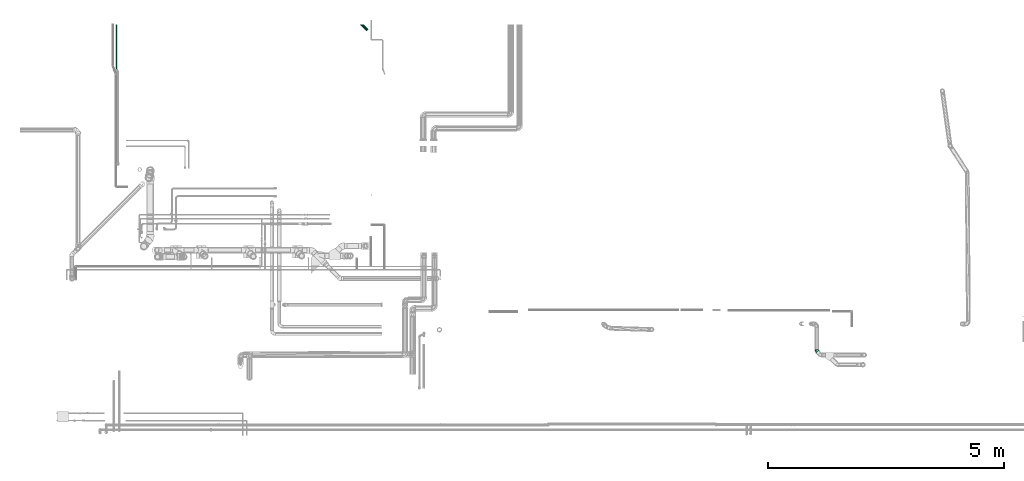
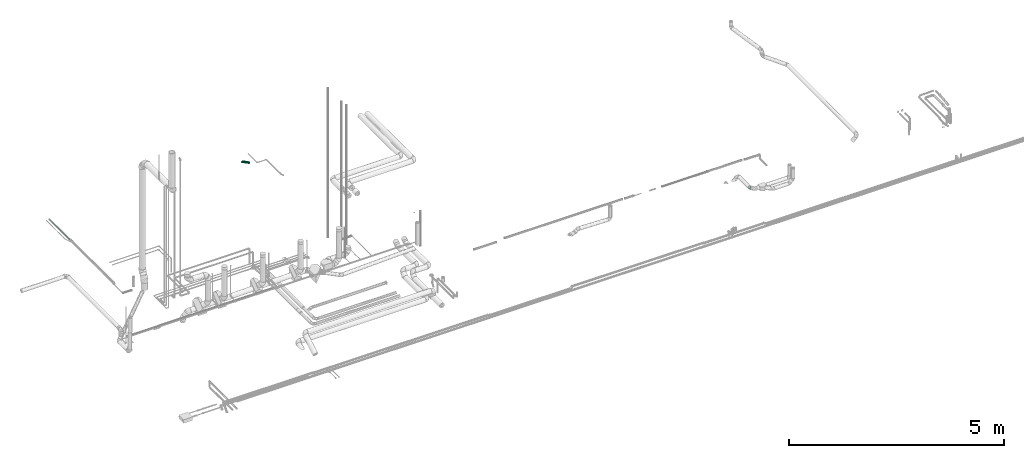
# One storey, part 142 of 156: 2 flow segments, 1 flow fitting.
"""IFC2X3 building model written with IfcOpenShell, lengths in millimetres."""

from ifc_helpers import new_model, entity, si_unit, converted_unit, derived_unit, direction, frame, origin_with_axes, place, context, subcontext, project, spatial, open_shell, faceted_brep, surface_model, source, transform, mapped, type_object, element, save


model = new_model("IFC2X3")

# Units and contexts
model_context = context("Model", 3, precision=0.01, world=frame((0.0, 4.29681676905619e-09, 0.0)), true_north=direction((4.01073788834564e-13, 1.0)))
plan_context = context("Plan", 3, precision=0.01, world=frame((0.0, 4.29681676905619e-09, 0.0)), true_north=direction((4.01073788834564e-13, 1.0)))
body_context = subcontext(model_context, "Body", "Model", "MODEL_VIEW")
ifc_project = project(units=[converted_unit("PLANEANGLEUNIT", "DEGREE", entity("IfcPositiveLengthMeasure", 0.0174532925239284), si_unit("PLANEANGLEUNIT", "RADIAN"), dimensions=[0, 0, 0, 0, 0, 0, 0]), si_unit("AREAUNIT", "SQUARE_METRE"), si_unit("LENGTHUNIT", "METRE", prefix="MILLI"), si_unit("MASSUNIT", "GRAM", prefix="KILO"), si_unit("POWERUNIT", "WATT"), si_unit("PRESSUREUNIT", "PASCAL", prefix="KILO"), si_unit("FORCEUNIT", "NEWTON", prefix="KILO"), si_unit("ELECTRICVOLTAGEUNIT", "VOLT"), si_unit("ELECTRICCURRENTUNIT", "AMPERE"), si_unit("THERMODYNAMICTEMPERATUREUNIT", "DEGREE_CELSIUS"), si_unit("TIMEUNIT", "SECOND"), si_unit("VOLUMEUNIT", "CUBIC_METRE"), derived_unit("LINEARVELOCITYUNIT", [(si_unit("LENGTHUNIT", "METRE"), 1), (si_unit("TIMEUNIT", "SECOND"), -1)]), derived_unit("VOLUMETRICFLOWRATEUNIT", [(si_unit("VOLUMEUNIT", "CUBIC_METRE"), 1), (si_unit("TIMEUNIT", "SECOND"), -1)]), derived_unit("THERMALTRANSMITTANCEUNIT", [(si_unit("POWERUNIT", "WATT"), 1), (si_unit("THERMODYNAMICTEMPERATUREUNIT", "KELVIN"), -1), (si_unit("AREAUNIT", "SQUARE_METRE"), -1)]), derived_unit("SOUNDPRESSUREUNIT", [(si_unit("PRESSUREUNIT", "PASCAL"), 1)])], contexts=[model_context, plan_context])

# Site, building, storey
site_placement = place(None, frame((0.0, -4.29681676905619e-09, 0.0), z_axis=(0.0, 0.0, 1.0), x_axis=(1.0, 0.0, 0.0)))
site = spatial("IfcSite", under=ifc_project, at=site_placement, CompositionType="ELEMENT")
building_placement = place(site_placement, frame((0.0, 4.29681676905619e-09, 0.0), z_axis=(0.0, 0.0, 1.0), x_axis=(1.0, 0.0, 0.0)))
building = spatial("IfcBuilding", under=site, at=building_placement, Name="mc-building", CompositionType="ELEMENT")
storey_placement = place(building_placement, frame((0.0, 0.0, 205200.0), z_axis=(0.0, 0.0, 1.0), x_axis=(1.0, 0.0, 0.0)))
storey = spatial("IfcBuildingStorey", under=building, at=storey_placement, Name="Nivå D + 1,2 m", CompositionType="ELEMENT", Elevation=205200.0)

# Flow fitting
pipe_fitting_type = type_object("IfcPipeFittingType", Name="magi_pipe_elbow_short_001", PredefinedType="BEND")
shared_shape = source(origin_with_axes(), body_context, "Body", "SurfaceModel", [
    surface_model("IfcShellBasedSurfaceModel", [(-27.29777, 18.75, -32.47595), (-27.29777, 9.70571, -36.22222), (-27.29777, 0.0, -37.5), (-27.29777, 26.5165, -26.5165), (-27.29777, 36.22222, -9.70571), (-27.29777, 32.47595, -18.75), (-27.29777, -26.5165, -26.5165), (-27.29777, -32.47595, -18.75), (-27.29777, -18.75, -32.47595), (-27.29777, -9.70571, -36.22222), (-27.29777, -36.22222, -9.70571), (-27.29777, -37.5, 0.0), (-27.29777, -36.22222, 9.70571), (-27.29777, 36.22222, 9.70571), (-27.29777, 37.5, 0.0), (-27.29777, 26.5165, 26.5165), (-27.29777, 32.47595, 18.75), (-27.29777, 9.70571, 36.22222), (-27.29777, 18.75, 32.47595), (-27.29777, 0.0, 37.5), (-27.29777, -32.47595, 18.75), (-27.29777, -26.5165, 26.5165), (-27.29777, -18.75, 32.47595), (-27.29777, -9.70571, 36.22222), (20.9113, 17.54667, -37.5), (14.67259, 24.98168, -36.22222), (8.85904, 31.91, -32.47595), (0.03616, 42.42469, -18.75), (41.78644, -7.33136, -18.75), (-3.19323, 46.27333, 0.0), (3.86682, 37.85949, -26.5165), (27.15002, 10.11166, -36.22222), (37.95578, -2.76615, -26.5165), (32.96357, 3.18333, -32.47595), (45.01584, -11.18, 0.0), (44.1945, -10.20116, -9.70571), (3.86682, 37.85949, 26.5165), (-2.37189, 45.2945, -9.70571), (-2.37189, 45.2945, 9.70571), (0.03616, 42.42469, 18.75), (8.85904, 31.91, 32.47595), (14.67259, 24.98168, 36.22222), (20.9113, 17.54667, 37.5), (41.78644, -7.33136, 18.75), (32.96357, 3.18333, 32.47595), (37.95578, -2.76615, 26.5165), (44.1945, -10.20116, 9.70571), (27.15002, 10.11166, 36.22222), (-10.43486, -28.90707, 22.1402), (-4.73319, -32.74118, 13.25648), (8.90732, -24.47266, 21.3101), (-11.49902, -35.81697, 6.47084), (-1.35348, -34.46755, 0.0), (-5.98655, -21.3556, 29.0742), (26.57467, -15.43671, 22.1402), (-13.29391, -13.92383, 34.36069), (3.77414, -10.36937, 33.98654), (-2.84666, 7.82114, 37.33539), (-8.43906, -3.6724, 37.03277), (18.31308, -12.51125, 29.0742), (19.13379, -2.12111, 34.36069), (-11.17938, 15.60426, 35.00263), (-9.13802, 25.1065, 30.43756), (10.37108, -28.49431, 13.10296), (18.14237, -27.21791, 6.88311), (3.62436, -32.49275, 6.94123), (-10.65521, 32.28203, 23.58514), (-13.37326, 36.74274, 15.18616), (-14.06233, 39.04689, 7.76112), (32.13983, -19.74647, 6.96839), (24.67146, -22.03876, 13.25648), (10.23936, 3.43247, 37.04651), (2.44489, 21.40683, 34.9052), (-14.47201, 39.76153, 0.0), (23.19214, -25.53367, 0.0), (37.2008, -16.32003, 0.0), (-10.05016, -3.95231, -37.04651), (3.59747, -32.51182, -6.8831), (-11.92775, -35.78576, -6.96839), (-4.73319, -32.74118, -13.25648), (8.82527, 2.6113, -37.03277), (-2.84666, 7.82114, -37.33539), (-12.58813, 31.57851, -23.58513), (-9.13802, 25.1065, -30.43757), (18.31308, -12.51125, -29.0742), (24.67146, -22.03876, -13.25648), (-14.32648, 38.95074, -7.76112), (-13.37326, 36.74274, -15.18616), (10.37108, -28.49431, -13.10296), (18.10951, -27.22058, -6.94123), (-1.46632, 19.13953, -35.00263), (-15.63294, 14.82703, -34.9052), (26.57467, -15.43671, -22.1402), (-10.43486, -28.90707, -22.1402), (8.90732, -24.47266, -21.3101), (-5.98655, -21.3556, -29.0742), (-13.29391, -13.92383, -34.36069), (19.13379, -2.12111, -34.36069), (3.77414, -10.36937, -33.98654), (31.83147, -20.04596, -6.47084), (-18.00715, -36.41408, 0.0)], [open_shell([[[0, 1, 2]], [[3, 0, 2]], [[4, 5, 3]], [[6, 3, 2]], [[4, 3, 7]], [[8, 6, 9]], [[6, 2, 9]], [[10, 11, 7]], [[3, 6, 7]], [[7, 11, 12]], [[12, 4, 7]], [[13, 14, 15]], [[16, 13, 15]], [[17, 18, 15]], [[14, 17, 15]], [[19, 17, 14]], [[20, 21, 12]], [[22, 12, 21]], [[23, 19, 22]], [[12, 22, 19]], [[19, 14, 12]], [[4, 12, 14]], [[24, 25, 26]], [[24, 26, 27]], [[28, 24, 29]], [[27, 26, 30]], [[24, 27, 29]], [[31, 32, 33]], [[32, 31, 28]], [[28, 34, 35]], [[28, 31, 24]], [[28, 36, 34]], [[27, 37, 29]], [[36, 29, 38]], [[36, 38, 39]], [[36, 40, 41]], [[41, 34, 36]], [[41, 42, 34]], [[43, 44, 45]], [[44, 43, 46]], [[44, 42, 47]], [[42, 44, 46]], [[34, 42, 46]], [[36, 28, 29]], [[48, 49, 50]], [[51, 11, 52]], [[22, 21, 53]], [[43, 45, 54]], [[55, 53, 56]], [[48, 21, 20]], [[42, 41, 57]], [[23, 22, 55]], [[19, 58, 57]], [[19, 23, 58]], [[59, 54, 45]], [[44, 47, 60]], [[57, 17, 19]], [[18, 61, 62]], [[63, 50, 49]], [[64, 63, 65]], [[18, 17, 61]], [[62, 15, 18]], [[48, 53, 21]], [[66, 15, 62]], [[13, 16, 67]], [[40, 36, 62]], [[68, 14, 13]], [[64, 69, 70]], [[65, 49, 51]], [[12, 51, 49]], [[71, 57, 58]], [[45, 44, 59]], [[72, 57, 41]], [[71, 47, 42]], [[39, 38, 67]], [[70, 43, 54]], [[56, 71, 58]], [[59, 44, 60]], [[66, 67, 16]], [[69, 46, 70]], [[49, 48, 20]], [[57, 71, 42]], [[54, 59, 50]], [[13, 67, 68]], [[20, 12, 49]], [[73, 68, 29]], [[53, 59, 56]], [[38, 68, 67]], [[15, 66, 16]], [[36, 39, 66]], [[56, 60, 71]], [[66, 62, 36]], [[67, 66, 39]], [[41, 40, 72]], [[72, 62, 61]], [[55, 58, 23]], [[17, 57, 61]], [[70, 46, 43]], [[53, 48, 50]], [[59, 53, 50]], [[70, 54, 50]], [[53, 55, 22]], [[58, 55, 56]], [[71, 60, 47]], [[59, 60, 56]], [[29, 68, 38]], [[68, 73, 14]], [[62, 72, 40]], [[57, 72, 61]], [[11, 51, 12]], [[65, 51, 52]], [[64, 52, 74]], [[63, 49, 65]], [[65, 52, 64]], [[50, 63, 70]], [[75, 69, 74]], [[70, 63, 64]], [[46, 75, 34]], [[74, 69, 64]], [[75, 46, 69]], [[9, 2, 76]], [[77, 78, 79]], [[24, 31, 80]], [[2, 1, 81]], [[82, 83, 3]], [[33, 32, 84]], [[5, 82, 3]], [[28, 35, 85]], [[4, 86, 87]], [[77, 88, 89]], [[26, 25, 90]], [[1, 0, 91]], [[78, 10, 79]], [[85, 92, 28]], [[79, 93, 94]], [[93, 79, 7]], [[6, 8, 95]], [[95, 84, 94]], [[10, 7, 79]], [[6, 93, 7]], [[96, 8, 9]], [[97, 80, 31]], [[25, 81, 90]], [[98, 96, 76]], [[14, 73, 86]], [[95, 93, 6]], [[29, 37, 86]], [[30, 82, 27]], [[35, 99, 85]], [[87, 5, 4]], [[82, 30, 83]], [[96, 95, 8]], [[90, 83, 26]], [[81, 80, 76]], [[83, 90, 91]], [[3, 83, 0]], [[88, 94, 85]], [[81, 25, 24]], [[97, 31, 33]], [[30, 26, 83]], [[28, 92, 32]], [[98, 97, 84]], [[92, 84, 32]], [[80, 81, 24]], [[94, 92, 85]], [[87, 82, 5]], [[74, 99, 34]], [[81, 76, 2]], [[98, 76, 80]], [[99, 89, 85]], [[93, 95, 94]], [[84, 95, 98]], [[37, 27, 87]], [[37, 87, 86]], [[82, 87, 27]], [[91, 81, 1]], [[84, 92, 94]], [[76, 96, 9]], [[95, 96, 98]], [[84, 97, 33]], [[80, 97, 98]], [[14, 86, 4]], [[86, 73, 29]], [[83, 91, 0]], [[81, 91, 90]], [[34, 99, 35]], [[89, 99, 74]], [[77, 74, 52]], [[88, 85, 89]], [[89, 74, 77]], [[94, 88, 79]], [[100, 78, 52]], [[79, 88, 77]], [[10, 100, 11]], [[52, 78, 77]], [[100, 10, 78]]])]),
])
flow_fitting_placement = place(storey_placement, frame((338407.25109, 460598.98935, 4098.75644), z_axis=(0.0, 0.0, 1.0), x_axis=(0.0, -1.0, 0.0)))
element("IfcFlowFitting", 1, at=flow_fitting_placement, inside=storey, type_object=pipe_fitting_type, Name="magi_pipe_elbow_short_001", context=body_context, shape_type="MappedRepresentation", body=[
    mapped(shared_shape, transform((0.0, 0.0, 0.0), scale=1.0)),
])

# Flow segments
pipe_segment_type_1 = type_object("IfcPipeSegmentType", Name="Stålrør normaltykke", PredefinedType="RIGIDSEGMENT")
flow_segment_1_placement = place(storey_placement, frame((328677.97338, 467601.3476, 4025.29848999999), z_axis=(0.0, 0.0, 1.0), x_axis=(0.707106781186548, -0.707106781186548, 0.0)))
element("IfcFlowSegment", 2, at=flow_segment_1_placement, inside=storey, type_object=pipe_segment_type_1, Name="Stålrør normaltykke", context=body_context, shape_type="Brep", body=[
    faceted_brep([(171.000248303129, 27.673097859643, -4.87951379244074), (171.427150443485, 28.1, 0.0), (315.0, 28.1, 0.0), (315.0, 27.673097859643, -4.87951379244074), (169.732513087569, 26.405362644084, -9.61076602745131), (315.0, 26.405362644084, -9.61076602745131), (167.662464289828, 24.3353138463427, -14.05), (315.0, 24.3353138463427, -14.05), (164.852999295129, 21.5258488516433, -18.0623318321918), (315.0, 21.5258488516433, -18.0623318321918), (161.389482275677, 18.0623318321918, -21.5258488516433), (315.0, 18.0623318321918, -21.5258488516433), (157.377150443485, 14.05, -24.3353138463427), (315.0, 14.05, -24.3353138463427), (315.0, 11.9844620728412, -25.2984899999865), (155.311612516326, 11.9844620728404, -25.2984899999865), (129.277150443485, -14.05, -24.3353138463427), (131.342688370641, -11.9844620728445, -25.2984899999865), (315.0, -11.9844620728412, -25.2984899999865), (315.0, -14.05, -24.3353138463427), (125.264818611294, -18.0623318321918, -21.5258488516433), (315.0, -18.0623318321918, -21.5258488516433), (121.801301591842, -21.5258488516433, -18.0623318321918), (315.0, -21.5258488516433, -18.0623318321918), (118.991836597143, -24.3353138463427, -14.05), (315.0, -24.3353138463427, -14.05), (116.921787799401, -26.405362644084, -9.61076602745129), (315.0, -26.405362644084, -9.61076602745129), (115.654052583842, -27.6730978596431, -4.87951379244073), (315.0, -27.6730978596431, -4.87951379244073), (115.227150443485, -28.1, 3.44125750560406e-15), (315.0, -28.1, 3.44125750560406e-15), (115.654052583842, -27.6730978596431, 4.87951379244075), (315.0, -27.673097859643, 4.87951379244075), (116.921787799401, -26.405362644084, 9.6107660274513), (315.0, -26.405362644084, 9.6107660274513), (118.991836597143, -24.3353138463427, 14.05), (315.0, -24.3353138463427, 14.05), (121.801301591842, -21.5258488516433, 18.0623318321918), (315.0, -21.5258488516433, 18.0623318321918), (125.264818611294, -18.0623318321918, 21.5258488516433), (315.0, -18.0623318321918, 21.5258488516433), (129.277150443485, -14.05, 24.3353138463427), (315.0, -14.05, 24.3353138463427), (133.716384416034, -9.61076602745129, 26.405362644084), (315.0, -9.61076602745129, 26.405362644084), (138.447636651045, -4.87951379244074, 27.673097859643), (315.0, -4.87951379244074, 27.673097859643), (143.327150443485, 1.72062875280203e-15, 28.1), (315.0, 1.72062875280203e-15, 28.1), (148.206664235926, 4.87951379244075, 27.673097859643), (315.0, 4.87951379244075, 27.673097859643), (152.937916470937, 9.61076602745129, 26.405362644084), (315.0, 9.61076602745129, 26.405362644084), (157.377150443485, 14.05, 24.3353138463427), (315.0, 14.05, 24.3353138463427), (161.389482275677, 18.0623318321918, 21.5258488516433), (315.0, 18.0623318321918, 21.5258488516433), (164.852999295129, 21.5258488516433, 18.0623318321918), (315.0, 21.5258488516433, 18.0623318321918), (167.662464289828, 24.3353138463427, 14.05), (315.0, 24.3353138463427, 14.05), (169.732513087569, 26.405362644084, 9.61076602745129), (315.0, 26.405362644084, 9.61076602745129), (171.000248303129, 27.673097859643, 4.87951379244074), (315.0, 27.673097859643, 4.87951379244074), (173.427150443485, 30.1, 0.0), (172.969863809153, 29.6427133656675, -5.2268101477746), (315.0, 29.6427133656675, -5.2268101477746), (315.0, 30.1, 0.0), (172.969863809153, 29.6427133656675, 5.2268101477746), (315.0, 29.6427133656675, 5.2268101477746), (171.611898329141, 28.2847478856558, 10.2948063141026), (315.0, 28.2847478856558, 10.2948063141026), (169.394515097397, 26.0673646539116, 15.05), (315.0, 26.0673646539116, 15.05), (166.385088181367, 23.0579377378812, 19.3479070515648), (315.0, 23.0579377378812, 19.3479070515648), (162.67505749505, 19.3479070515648, 23.0579377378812), (315.0, 19.3479070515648, 23.0579377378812), (158.377150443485, 15.05, 26.0673646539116), (315.0, 15.05, 26.0673646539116), (153.621956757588, 10.2948063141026, 28.2847478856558), (315.0, 10.2948063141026, 28.2847478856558), (148.55396059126, 5.22681014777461, 29.6427133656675), (315.0, 5.22681014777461, 29.6427133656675), (143.327150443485, 1.84309343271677e-15, 30.1), (315.0, 1.84309343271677e-15, 30.1), (138.100340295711, -5.2268101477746, 29.6427133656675), (315.0, -5.2268101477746, 29.6427133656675), (133.032344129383, -10.2948063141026, 28.2847478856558), (315.0, -10.2948063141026, 28.2847478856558), (128.277150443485, -15.05, 26.0673646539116), (315.0, -15.05, 26.0673646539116), (123.979243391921, -19.3479070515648, 23.0579377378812), (315.0, -19.3479070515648, 23.0579377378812), (120.269212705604, -23.0579377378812, 19.3479070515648), (315.0, -23.0579377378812, 19.3479070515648), (117.259785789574, -26.0673646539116, 15.05), (315.0, -26.0673646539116, 15.05), (115.04240255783, -28.2847478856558, 10.2948063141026), (315.0, -28.2847478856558, 10.2948063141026), (113.684437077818, -29.6427133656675, 5.22681014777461), (315.0, -29.6427133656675, 5.22681014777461), (113.227150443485, -30.1, 3.68618686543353e-15), (315.0, -30.1, 3.68618686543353e-15), (113.684437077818, -29.6427133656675, -5.22681014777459), (315.0, -29.6427133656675, -5.22681014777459), (115.04240255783, -28.2847478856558, -10.2948063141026), (315.0, -28.2847478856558, -10.2948063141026), (117.259785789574, -26.0673646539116, -15.05), (315.0, -26.0673646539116, -15.05), (120.269212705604, -23.0579377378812, -19.3479070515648), (315.0, -23.0579377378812, -19.3479070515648), (123.979243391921, -19.3479070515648, -23.0579377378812), (315.0, -19.3479070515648, -23.0579377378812), (315.0, -16.1480668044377, -25.2984899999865), (129.037459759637, -14.2896906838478, -25.2984899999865), (162.67505749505, 19.3479070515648, -23.0579377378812), (159.786186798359, 16.4590363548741, -25.2984899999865), (315.0, 16.1480668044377, -25.2984899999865), (315.0, 19.3479070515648, -23.0579377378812), (166.385088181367, 23.0579377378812, -19.3479070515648), (315.0, 23.0579377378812, -19.3479070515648), (169.394515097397, 26.0673646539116, -15.05), (315.0, 26.0673646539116, -15.05), (171.611898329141, 28.2847478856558, -10.2948063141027), (315.0, 28.2847478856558, -10.2948063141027), (159.475217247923, 16.1480668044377, -25.2984899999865), (127.179083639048, -16.1480668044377, -25.2984899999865)], [[[0, 1, 2, 3]], [[4, 0, 3, 5]], [[6, 4, 5, 7]], [[8, 6, 7, 9]], [[10, 8, 9, 11]], [[12, 10, 11, 13]], [[14, 15, 12, 13]], [[16, 17, 18, 19]], [[20, 16, 19, 21]], [[22, 20, 21, 23]], [[24, 22, 23, 25]], [[26, 24, 25, 27]], [[28, 26, 27, 29]], [[30, 28, 29, 31]], [[32, 30, 31, 33]], [[34, 32, 33, 35]], [[36, 34, 35, 37]], [[38, 36, 37, 39]], [[40, 38, 39, 41]], [[42, 40, 41, 43]], [[44, 42, 43, 45]], [[46, 44, 45, 47]], [[48, 46, 47, 49]], [[50, 48, 49, 51]], [[52, 50, 51, 53]], [[54, 52, 53, 55]], [[56, 54, 55, 57]], [[58, 56, 57, 59]], [[60, 58, 59, 61]], [[62, 60, 61, 63]], [[64, 62, 63, 65]], [[1, 64, 65, 2]], [[66, 67, 68, 69]], [[70, 66, 69, 71]], [[72, 70, 71, 73]], [[74, 72, 73, 75]], [[76, 74, 75, 77]], [[78, 76, 77, 79]], [[80, 78, 79, 81]], [[82, 80, 81, 83]], [[84, 82, 83, 85]], [[86, 84, 85, 87]], [[88, 86, 87, 89]], [[90, 88, 89, 91]], [[92, 90, 91, 93]], [[94, 92, 93, 95]], [[96, 94, 95, 97]], [[98, 96, 97, 99]], [[100, 98, 99, 101]], [[102, 100, 101, 103]], [[104, 102, 103, 105]], [[106, 104, 105, 107]], [[108, 106, 107, 109]], [[110, 108, 109, 111]], [[112, 110, 111, 113]], [[114, 112, 113, 115]], [[116, 117, 114, 115]], [[118, 119, 120, 121]], [[122, 118, 121, 123]], [[124, 122, 123, 125]], [[126, 124, 125, 127]], [[67, 126, 127, 68]], [[120, 14, 13, 11, 9, 7, 5, 3, 2, 65, 63, 61, 59, 57, 55, 53, 51, 49, 47, 45, 43, 41, 39, 37, 35, 33, 31, 29, 27, 25, 23, 21, 19, 18, 116, 115, 113, 111, 109, 107, 105, 103, 101, 99, 97, 95, 93, 91, 89, 87, 85, 83, 81, 79, 77, 75, 73, 71, 69, 68, 127, 125, 123, 121]], [[128, 118, 122, 124, 126, 67, 66, 70, 72, 74, 76, 78, 80, 82, 84, 86, 88, 90, 92, 94, 96, 98, 100, 102, 104, 106, 108, 110, 112, 114, 129, 17, 16, 20, 22, 24, 26, 28, 30, 32, 34, 36, 38, 40, 42, 44, 46, 48, 50, 52, 54, 56, 58, 60, 62, 64, 1, 0, 4, 6, 8, 10, 12, 15]], [[15, 14, 120, 128]], [[129, 116, 18, 17]]], orient=[[False], [False], [False], [False], [False], [False], [False], [False], [False], [False], [False], [False], [False], [False], [False], [False], [False], [False], [False], [False], [False], [False], [False], [False], [False], [False], [False], [False], [False], [False], [False], [False], [False], [False], [False], [False], [False], [False], [False], [False], [False], [False], [False], [False], [False], [False], [False], [False], [False], [False], [False], [False], [False], [False], [False], [False], [False], [False], [False], [False], [False], [False], [False], [False], [False], [False]]),
])
pipe_segment_type_2 = type_object("IfcPipeSegmentType", Name="Kobberrør", PredefinedType="RIGIDSEGMENT")
flow_segment_2_placement = place(storey_placement, frame((323593.87367, 469075.34417, 4210.50902999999), z_axis=(0.0, 0.0, 1.0), x_axis=(0.0, -1.0, 0.0)))
element("IfcFlowSegment", 3, at=flow_segment_2_placement, inside=storey, type_object=pipe_segment_type_2, Name="Kobberrør", context=body_context, shape_type="Brep", body=[
    faceted_brep([(1575.34417000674, 6.89365427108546, -1.21553724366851), (1575.34417000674, 7.0, 0.0), (2520.2, 7.0, 0.0), (2520.2, 6.89365427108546, -1.21553724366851), (1575.34417000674, 6.57784834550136, -2.39414100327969), (2520.2, 6.57784834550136, -2.39414100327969), (1575.34417000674, 6.06217782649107, -3.5), (2520.2, 6.06217782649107, -3.5), (1575.34417000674, 5.36231110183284, -4.49951326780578), (2520.2, 5.36231110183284, -4.49951326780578), (1575.34417000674, 4.49951326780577, -5.36231110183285), (2520.2, 4.49951326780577, -5.36231110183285), (1575.34417000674, 3.5, -6.06217782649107), (2520.2, 3.5, -6.06217782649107), (1575.34417000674, 2.39414100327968, -6.57784834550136), (2520.2, 2.39414100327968, -6.57784834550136), (1575.34417000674, 1.21553724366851, -6.89365427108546), (2520.2, 1.21553724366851, -6.89365427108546), (1575.34417000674, -1.28587913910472e-15, -7.0), (2520.2, -1.28587913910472e-15, -7.0), (1575.34417000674, -1.21553724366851, -6.89365427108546), (2520.2, -1.21553724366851, -6.89365427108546), (1575.34417000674, -2.39414100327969, -6.57784834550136), (2520.2, -2.39414100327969, -6.57784834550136), (1575.34417000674, -3.5, -6.06217782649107), (2520.2, -3.5, -6.06217782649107), (1575.34417000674, -4.49951326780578, -5.36231110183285), (2520.2, -4.49951326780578, -5.36231110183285), (1575.34417000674, -5.36231110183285, -4.49951326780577), (2520.2, -5.36231110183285, -4.49951326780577), (1575.34417000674, -6.06217782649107, -3.5), (2520.2, -6.06217782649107, -3.5), (1575.34417000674, -6.57784834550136, -2.39414100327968), (2520.2, -6.57784834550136, -2.39414100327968), (1575.34417000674, -6.89365427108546, -1.21553724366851), (2520.2, -6.89365427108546, -1.21553724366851), (1575.34417000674, -7.0, 8.57252759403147e-16), (2520.2, -7.0, 8.57252759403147e-16), (1575.34417000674, -6.89365427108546, 1.21553724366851), (2520.2, -6.89365427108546, 1.21553724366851), (1575.34417000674, -6.57784834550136, 2.39414100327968), (2520.2, -6.57784834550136, 2.39414100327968), (1575.34417000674, -6.06217782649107, 3.5), (2520.2, -6.06217782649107, 3.5), (1575.34417000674, -5.36231110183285, 4.49951326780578), (2520.2, -5.36231110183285, 4.49951326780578), (1575.34417000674, -4.49951326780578, 5.36231110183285), (2520.2, -4.49951326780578, 5.36231110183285), (1575.34417000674, -3.5, 6.06217782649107), (2520.2, -3.5, 6.06217782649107), (1575.34417000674, -2.39414100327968, 6.57784834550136), (2520.2, -2.39414100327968, 6.57784834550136), (1575.34417000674, -1.21553724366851, 6.89365427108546), (2520.2, -1.21553724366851, 6.89365427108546), (1575.34417000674, 4.28626379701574e-16, 7.0), (2520.2, 4.28626379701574e-16, 7.0), (1575.34417000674, 1.21553724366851, 6.89365427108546), (2520.2, 1.21553724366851, 6.89365427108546), (1575.34417000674, 2.39414100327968, 6.57784834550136), (2520.2, 2.39414100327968, 6.57784834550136), (1575.34417000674, 3.5, 6.06217782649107), (2520.2, 3.5, 6.06217782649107), (1575.34417000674, 4.49951326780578, 5.36231110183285), (2520.2, 4.49951326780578, 5.36231110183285), (1575.34417000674, 5.36231110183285, 4.49951326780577), (2520.2, 5.36231110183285, 4.49951326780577), (1575.34417000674, 6.06217782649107, 3.5), (2520.2, 6.06217782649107, 3.5), (1575.34417000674, 6.57784834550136, 2.39414100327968), (2520.2, 6.57784834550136, 2.39414100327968), (1575.34417000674, 6.89365427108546, 1.21553724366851), (2520.2, 6.89365427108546, 1.21553724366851), (1575.34417000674, 9.0, 0.0), (1575.34417000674, 8.86326977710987, -1.56283359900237), (2520.2, 8.86326977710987, -1.56283359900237), (2520.2, 9.0, 0.0), (1575.34417000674, 8.86326977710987, 1.56283359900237), (2520.2, 8.86326977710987, 1.56283359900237), (1575.34417000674, 8.45723358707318, 3.07818128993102), (2520.2, 8.45723358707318, 3.07818128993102), (1575.34417000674, 7.79422863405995, 4.5), (2520.2, 7.79422863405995, 4.5), (1575.34417000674, 6.8943999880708, 5.78508848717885), (2520.2, 6.8943999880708, 5.78508848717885), (1575.34417000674, 5.78508848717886, 6.8943999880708), (2520.2, 5.78508848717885, 6.8943999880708), (1575.34417000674, 4.5, 7.79422863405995), (2520.2, 4.5, 7.79422863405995), (1575.34417000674, 3.07818128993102, 8.45723358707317), (2520.2, 3.07818128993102, 8.45723358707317), (1575.34417000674, 1.56283359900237, 8.86326977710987), (2520.2, 1.56283359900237, 8.86326977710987), (1575.34417000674, 5.51091059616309e-16, 9.0), (2520.2, 5.51091059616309e-16, 9.0), (1575.34417000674, -1.56283359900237, 8.86326977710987), (2520.2, -1.56283359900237, 8.86326977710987), (1575.34417000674, -3.07818128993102, 8.45723358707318), (2520.2, -3.07818128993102, 8.45723358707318), (1575.34417000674, -4.5, 7.79422863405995), (2520.2, -4.5, 7.79422863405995), (1575.34417000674, -5.78508848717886, 6.8943999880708), (2520.2, -5.78508848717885, 6.8943999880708), (1575.34417000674, -6.8943999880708, 5.78508848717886), (2520.2, -6.8943999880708, 5.78508848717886), (1575.34417000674, -7.79422863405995, 4.5), (2520.2, -7.79422863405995, 4.5), (1575.34417000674, -8.45723358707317, 3.07818128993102), (2520.2, -8.45723358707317, 3.07818128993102), (1575.34417000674, -8.86326977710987, 1.56283359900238), (2520.2, -8.86326977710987, 1.56283359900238), (1575.34417000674, -9.0, 1.10218211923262e-15), (2520.2, -9.0, 1.10218211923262e-15), (1575.34417000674, -8.86326977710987, -1.56283359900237), (2520.2, -8.86326977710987, -1.56283359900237), (1575.34417000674, -8.45723358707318, -3.07818128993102), (2520.2, -8.45723358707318, -3.07818128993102), (1575.34417000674, -7.79422863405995, -4.5), (2520.2, -7.79422863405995, -4.5), (1575.34417000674, -6.8943999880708, -5.78508848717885), (2520.2, -6.8943999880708, -5.78508848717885), (1575.34417000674, -5.78508848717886, -6.8943999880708), (2520.2, -5.78508848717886, -6.8943999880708), (1575.34417000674, -4.5, -7.79422863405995), (2520.2, -4.5, -7.79422863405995), (1575.34417000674, -3.07818128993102, -8.45723358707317), (2520.2, -3.07818128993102, -8.45723358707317), (1575.34417000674, -1.56283359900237, -8.86326977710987), (2520.2, -1.56283359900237, -8.86326977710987), (1575.34417000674, -1.65327317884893e-15, -9.0), (2520.2, -1.65327317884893e-15, -9.0), (1575.34417000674, 1.56283359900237, -8.86326977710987), (2520.2, 1.56283359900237, -8.86326977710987), (1575.34417000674, 3.07818128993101, -8.45723358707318), (2520.2, 3.07818128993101, -8.45723358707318), (1575.34417000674, 4.5, -7.79422863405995), (2520.2, 4.5, -7.79422863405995), (1575.34417000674, 5.78508848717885, -6.8943999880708), (2520.2, 5.78508848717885, -6.8943999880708), (1575.34417000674, 6.8943999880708, -5.78508848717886), (2520.2, 6.8943999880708, -5.78508848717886), (1575.34417000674, 7.79422863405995, -4.5), (2520.2, 7.79422863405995, -4.5), (1575.34417000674, 8.45723358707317, -3.07818128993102), (2520.2, 8.45723358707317, -3.07818128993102)], [[[0, 1, 2, 3]], [[4, 0, 3, 5]], [[6, 4, 5, 7]], [[8, 6, 7, 9]], [[10, 8, 9, 11]], [[12, 10, 11, 13]], [[14, 12, 13, 15]], [[16, 14, 15, 17]], [[18, 16, 17, 19]], [[20, 18, 19, 21]], [[22, 20, 21, 23]], [[24, 22, 23, 25]], [[26, 24, 25, 27]], [[28, 26, 27, 29]], [[30, 28, 29, 31]], [[32, 30, 31, 33]], [[34, 32, 33, 35]], [[36, 34, 35, 37]], [[38, 36, 37, 39]], [[40, 38, 39, 41]], [[42, 40, 41, 43]], [[44, 42, 43, 45]], [[46, 44, 45, 47]], [[48, 46, 47, 49]], [[50, 48, 49, 51]], [[52, 50, 51, 53]], [[54, 52, 53, 55]], [[56, 54, 55, 57]], [[58, 56, 57, 59]], [[60, 58, 59, 61]], [[62, 60, 61, 63]], [[64, 62, 63, 65]], [[66, 64, 65, 67]], [[68, 66, 67, 69]], [[70, 68, 69, 71]], [[1, 70, 71, 2]], [[72, 73, 74, 75]], [[76, 72, 75, 77]], [[78, 76, 77, 79]], [[80, 78, 79, 81]], [[82, 80, 81, 83]], [[84, 82, 83, 85]], [[86, 84, 85, 87]], [[88, 86, 87, 89]], [[90, 88, 89, 91]], [[92, 90, 91, 93]], [[94, 92, 93, 95]], [[96, 94, 95, 97]], [[98, 96, 97, 99]], [[100, 98, 99, 101]], [[102, 100, 101, 103]], [[104, 102, 103, 105]], [[106, 104, 105, 107]], [[108, 106, 107, 109]], [[110, 108, 109, 111]], [[112, 110, 111, 113]], [[114, 112, 113, 115]], [[116, 114, 115, 117]], [[118, 116, 117, 119]], [[120, 118, 119, 121]], [[122, 120, 121, 123]], [[124, 122, 123, 125]], [[126, 124, 125, 127]], [[128, 126, 127, 129]], [[130, 128, 129, 131]], [[132, 130, 131, 133]], [[134, 132, 133, 135]], [[136, 134, 135, 137]], [[138, 136, 137, 139]], [[140, 138, 139, 141]], [[142, 140, 141, 143]], [[73, 142, 143, 74]], [[75, 74, 143, 141, 139, 137, 135, 133, 131, 129, 127, 125, 123, 121, 119, 117, 115, 113, 111, 109, 107, 105, 103, 101, 99, 97, 95, 93, 91, 89, 87, 85, 83, 81, 79, 77], [2, 71, 69, 67, 65, 63, 61, 59, 57, 55, 53, 51, 49, 47, 45, 43, 41, 39, 37, 35, 33, 31, 29, 27, 25, 23, 21, 19, 17, 15, 13, 11, 9, 7, 5, 3]], [[76, 78, 80, 82, 84, 86, 88, 90, 92, 94, 96, 98, 100, 102, 104, 106, 108, 110, 112, 114, 116, 118, 120, 122, 124, 126, 128, 130, 132, 134, 136, 138, 140, 142, 73, 72], [4, 6, 8, 10, 12, 14, 16, 18, 20, 22, 24, 26, 28, 30, 32, 34, 36, 38, 40, 42, 44, 46, 48, 50, 52, 54, 56, 58, 60, 62, 64, 66, 68, 70, 1, 0]]], orient=[[False], [False], [False], [False], [False], [False], [False], [False], [False], [False], [False], [False], [False], [False], [False], [False], [False], [False], [False], [False], [False], [False], [False], [False], [False], [False], [False], [False], [False], [False], [False], [False], [False], [False], [False], [False], [False], [False], [False], [False], [False], [False], [False], [False], [False], [False], [False], [False], [False], [False], [False], [False], [False], [False], [False], [False], [False], [False], [False], [False], [False], [False], [False], [False], [False], [False], [False], [False], [False], [False], [False], [False], [False, False], [False, False]]),
])

save(model, "model.ifc")
